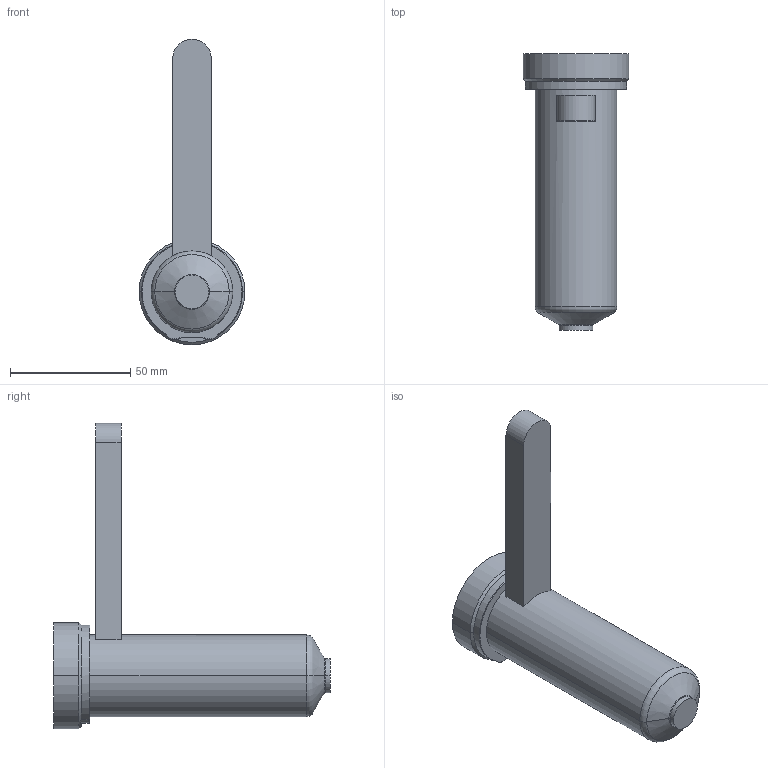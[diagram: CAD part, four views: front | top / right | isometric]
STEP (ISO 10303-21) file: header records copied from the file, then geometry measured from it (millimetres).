
FILE_DESCRIPTION((''),'2;1');
FILE_NAME('EO10_PG-FB_STD_100_COT','2024-02-19T11:33:17',('sundharh'),(''),'CREO PARAMETRIC BY PTC INC, 2023154','CREO PARAMETRIC BY PTC INC, 2023154','');
FILE_SCHEMA(('CONFIG_CONTROL_DESIGN'));
Length unit declared in the file: millimetre
Products named in the file (1): EO10_PG-FB_STD_100_COT
Bounding box: 44 x 115 x 127 mm (x, y, z)
Volume: 123348.3 mm3; surface area: 19592.8 mm2
Topology: 1 solids, 1 shells, 31 faces, 67 edges, 40 vertices
Faces by surface type: cylinder 11, plane 9, torus 7, cone 4
Entity records: 959 total; most frequent: CARTESIAN_POINT 226, DIRECTION 159, ORIENTED_EDGE 134, AXIS2_PLACEMENT_3D 67, EDGE_CURVE 67, VERTEX_POINT 40, CIRCLE 36, EDGE_LOOP 33
